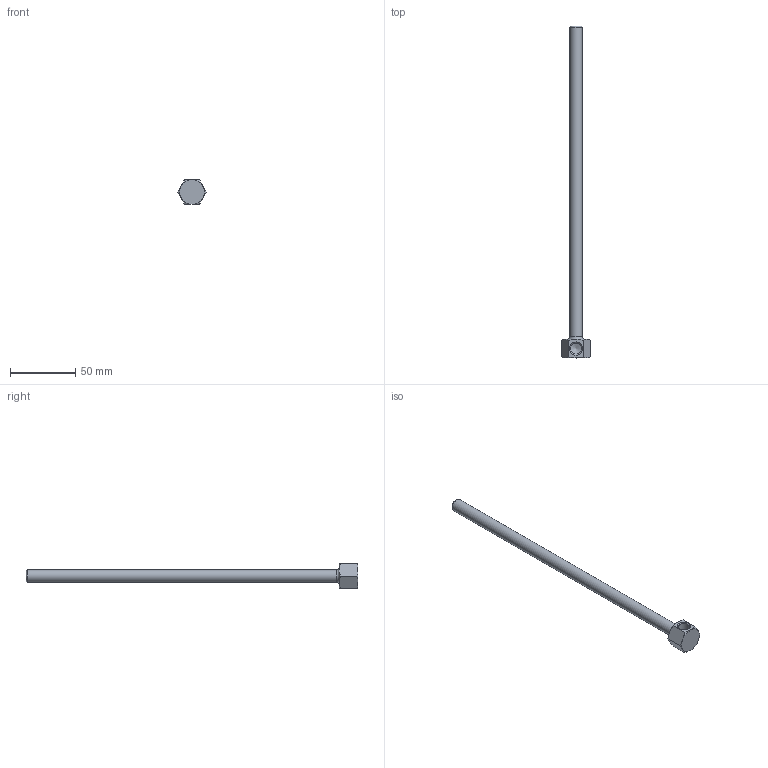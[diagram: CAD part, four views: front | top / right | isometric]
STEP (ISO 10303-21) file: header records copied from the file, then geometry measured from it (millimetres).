
FILE_DESCRIPTION(/* description */ (''),/* implementation_level */ '2;1');
FILE_NAME(/* name */ 'C:/Users/drich/Desktop/18B-10 v1.step',/* time_stamp */ '2019-12-29T15:21:20-06:00',/* author */ (''),/* organization */ (''),/* preprocessor_version */ 'ST-DEVELOPER v18',/* originating_system */ 'Autodesk Translation Framework v8.12.0.6',/* authorisation */ '');
FILE_SCHEMA (('AUTOMOTIVE_DESIGN { 1 0 10303 214 3 1 1 }'));
Length unit declared in the file: inch
Products named in the file (1): 18B-10
Bounding box: 22 x 254 x 19.05 mm (x, y, z)
Volume: 13423.7 mm3; surface area: 13871.4 mm2
Topology: 1 solids, 1 shells, 19 faces, 48 edges, 31 vertices
Faces by surface type: plane 9, cone 6, cylinder 3, torus 1
Full cylindrical faces by diameter (mm): 6.35 x1, 8.707 x1, 9.621 x1
Entity records: 633 total; most frequent: CARTESIAN_POINT 159, ORIENTED_EDGE 94, DIRECTION 89, EDGE_CURVE 47, AXIS2_PLACEMENT_3D 37, VERTEX_POINT 31, EDGE_LOOP 22, FACE_OUTER_BOUND 19
